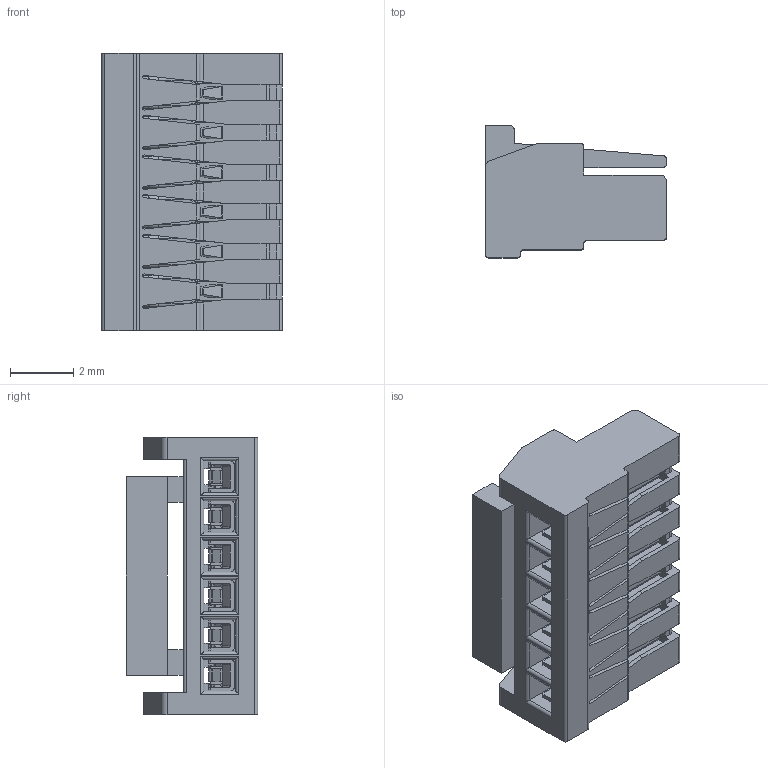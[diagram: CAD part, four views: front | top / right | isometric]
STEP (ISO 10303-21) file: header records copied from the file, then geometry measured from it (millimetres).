
FILE_DESCRIPTION(/* description */ (''),/* implementation_level */ '2;1');
FILE_NAME(/* name */ 'C:\Users\PaulT\Desktop\GrabCAD\JST-GHR-6V-S\JST-GHR-6V-S_with_terminals.stp',/* time_stamp */ '2019-01-30T14:36:45+01:00',/* author */ ('Paul THELU'),/* organization */ (''),/* preprocessor_version */ 'ST-DEVELOPER v17.2',/* originating_system */ 'Autodesk Inventor 2019',/* authorisation */ '');
FILE_SCHEMA (('AUTOMOTIVE_DESIGN { 1 0 10303 214 3 1 1 }'));
Length unit declared in the file: millimetre
Products named in the file (3): JST_GHR-6V-S_with_contact; JST_GHR-6V-S; JST_GHR-CONTACT
Assembly tree (7 placements, depth 2):
  JST_GHR-6V-S_with_contact
    JST_GHR-6V-S
    JST_GHR-CONTACT  x6
Bounding box: 5.7 x 4.15 x 8.75 mm (x, y, z)
Volume: 94 mm3; surface area: 528.4 mm2
Topology: 7 solids, 7 shells, 1005 faces, 2751 edges, 1746 vertices
Faces by surface type: plane 503, cylinder 454, torus 24, bspline 12, sphere 12
Entity records: 13846 total; most frequent: CARTESIAN_POINT 2485, ORIENTED_EDGE 2412, DIRECTION 2344, EDGE_CURVE 1206, LINE 894, VECTOR 894, VERTEX_POINT 776, AXIS2_PLACEMENT_3D 725
